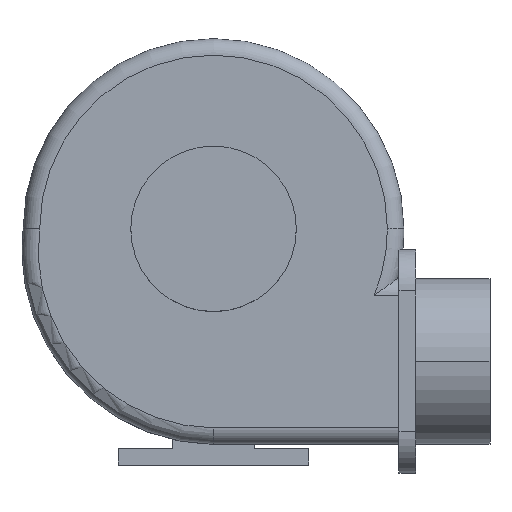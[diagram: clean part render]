
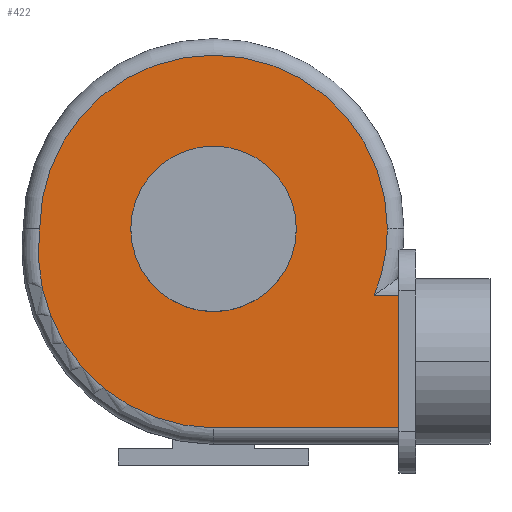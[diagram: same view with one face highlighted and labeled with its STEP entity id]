
A CAD part, top view. The second image highlights one B-rep face of the part: STEP entity #422.
In plain terms, the highlighted planar face has unit normal (0, 0, 1).
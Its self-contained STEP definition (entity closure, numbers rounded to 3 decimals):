
#38 = VERTEX_POINT ( 'NONE', #134 ) ;
#97 = DIRECTION ( 'NONE',  ( -1., 0., 0. ) ) ;
#109 = VERTEX_POINT ( 'NONE', #1774 ) ;
#120 = DIRECTION ( 'NONE',  ( -1., 0., 0. ) ) ;
#134 = CARTESIAN_POINT ( 'NONE',  ( 97.082, -40., 50. ) ) ;
#146 = CARTESIAN_POINT ( 'NONE',  ( 0., -120.199, 50. ) ) ;
#169 = EDGE_CURVE ( 'NONE', #262, #109, #2004, .T. ) ;
#171 = CARTESIAN_POINT ( 'NONE',  ( 112., -40., 50. ) ) ;
#181 = DIRECTION ( 'NONE',  ( 1., 0., 0. ) ) ;
#192 = DIRECTION ( 'NONE',  ( 0., 0., 1. ) ) ;
#262 = VERTEX_POINT ( 'NONE', #171 ) ;
#283 = AXIS2_PLACEMENT_3D ( 'NONE', #1579, #192, #1796 ) ;
#376 = ORIENTED_EDGE ( 'NONE', *, *, #385, .T. ) ;
#385 = EDGE_CURVE ( 'NONE', #1235, #2337, #432, .T. ) ;
#422 = ADVANCED_FACE ( 'NONE', ( #2107, #2173 ), #598, .T. ) ;
#432 = LINE ( 'NONE', #2864, #1584 ) ;
#489 = CIRCLE ( 'NONE', #283, 50. ) ;
#521 = LINE ( 'NONE', #853, #1548 ) ;
#596 = LINE ( 'NONE', #2652, #1210 ) ;
#598 = PLANE ( 'NONE',  #2395 ) ;
#615 = ORIENTED_EDGE ( 'NONE', *, *, #2442, .T. ) ;
#623 = DIRECTION ( 'NONE',  ( -1., 0., 0. ) ) ;
#664 = AXIS2_PLACEMENT_3D ( 'NONE', #2567, #1200, #2794 ) ;
#753 = EDGE_LOOP ( 'NONE', ( #1654, #1484 ) ) ;
#756 = EDGE_LOOP ( 'NONE', ( #376, #2443, #615, #2926, #1129, #938, #2436, #2460 ) ) ;
#779 = VECTOR ( 'NONE', #2187, 1000. ) ;
#827 = CARTESIAN_POINT ( 'NONE',  ( 0., 0., 50. ) ) ;
#853 = CARTESIAN_POINT ( 'NONE',  ( 112., -120., 50. ) ) ;
#865 = EDGE_CURVE ( 'NONE', #1899, #1235, #2935, .T. ) ;
#886 = EDGE_CURVE ( 'NONE', #2625, #1901, #489, .T. ) ;
#899 = DIRECTION ( 'NONE',  ( 0., 0., 1. ) ) ;
#938 = ORIENTED_EDGE ( 'NONE', *, *, #2157, .T. ) ;
#987 = DIRECTION ( 'NONE',  ( 0., 0., 1. ) ) ;
#1129 = ORIENTED_EDGE ( 'NONE', *, *, #169, .F. ) ;
#1174 = CARTESIAN_POINT ( 'NONE',  ( -50., 0., 50. ) ) ;
#1200 = DIRECTION ( 'NONE',  ( 0., 0., 1. ) ) ;
#1210 = VECTOR ( 'NONE', #1276, 1000. ) ;
#1235 = VERTEX_POINT ( 'NONE', #2868 ) ;
#1262 = CARTESIAN_POINT ( 'NONE',  ( 105., 0., 50. ) ) ;
#1265 = VERTEX_POINT ( 'NONE', #146 ) ;
#1269 = AXIS2_PLACEMENT_3D ( 'NONE', #2266, #899, #2503 ) ;
#1276 = DIRECTION ( 'NONE',  ( 0., 1., 0. ) ) ;
#1314 = EDGE_CURVE ( 'NONE', #109, #2026, #521, .T. ) ;
#1484 = ORIENTED_EDGE ( 'NONE', *, *, #2014, .F. ) ;
#1497 = CARTESIAN_POINT ( 'NONE',  ( 50., 0., 50. ) ) ;
#1548 = VECTOR ( 'NONE', #623, 1000. ) ;
#1569 = DIRECTION ( 'NONE',  ( 0., 0., 1. ) ) ;
#1579 = CARTESIAN_POINT ( 'NONE',  ( 0., 0., 50. ) ) ;
#1584 = VECTOR ( 'NONE', #120, 1000. ) ;
#1654 = ORIENTED_EDGE ( 'NONE', *, *, #886, .F. ) ;
#1735 = DIRECTION ( 'NONE',  ( 0., 0., 1. ) ) ;
#1774 = CARTESIAN_POINT ( 'NONE',  ( 112., -120., 50. ) ) ;
#1796 = DIRECTION ( 'NONE',  ( 1., 0., 0. ) ) ;
#1852 = LINE ( 'NONE', #2840, #1915 ) ;
#1899 = VERTEX_POINT ( 'NONE', #1262 ) ;
#1901 = VERTEX_POINT ( 'NONE', #1497 ) ;
#1915 = VECTOR ( 'NONE', #97, 1000. ) ;
#1999 = CIRCLE ( 'NONE', #2194, 107.315 ) ;
#2004 = LINE ( 'NONE', #2882, #779 ) ;
#2014 = EDGE_CURVE ( 'NONE', #1901, #2625, #2819, .T. ) ;
#2026 = VERTEX_POINT ( 'NONE', #2109 ) ;
#2073 = EDGE_CURVE ( 'NONE', #2337, #1265, #1999, .T. ) ;
#2107 = FACE_OUTER_BOUND ( 'NONE', #756, .T. ) ;
#2109 = CARTESIAN_POINT ( 'NONE',  ( 0., -120., 50. ) ) ;
#2157 = EDGE_CURVE ( 'NONE', #262, #38, #1852, .T. ) ;
#2173 = FACE_BOUND ( 'NONE', #753, .T. ) ;
#2187 = DIRECTION ( 'NONE',  ( 0., -1., 0. ) ) ;
#2194 = AXIS2_PLACEMENT_3D ( 'NONE', #2363, #987, #2598 ) ;
#2266 = CARTESIAN_POINT ( 'NONE',  ( 0., 0., 50. ) ) ;
#2337 = VERTEX_POINT ( 'NONE', #2370 ) ;
#2363 = CARTESIAN_POINT ( 'NONE',  ( 1.404, -12.893, 50. ) ) ;
#2370 = CARTESIAN_POINT ( 'NONE',  ( -105.135, 0., 50. ) ) ;
#2395 = AXIS2_PLACEMENT_3D ( 'NONE', #827, #1735, #2435 ) ;
#2435 = DIRECTION ( 'NONE',  ( 1., 0., 0. ) ) ;
#2436 = ORIENTED_EDGE ( 'NONE', *, *, #2900, .T. ) ;
#2442 = EDGE_CURVE ( 'NONE', #1265, #2026, #596, .T. ) ;
#2443 = ORIENTED_EDGE ( 'NONE', *, *, #2073, .T. ) ;
#2460 = ORIENTED_EDGE ( 'NONE', *, *, #865, .T. ) ;
#2503 = DIRECTION ( 'NONE',  ( 1., 0., 0. ) ) ;
#2566 = CIRCLE ( 'NONE', #1269, 105. ) ;
#2567 = CARTESIAN_POINT ( 'NONE',  ( 0., 0., 50. ) ) ;
#2598 = DIRECTION ( 'NONE',  ( 1., 0., 0. ) ) ;
#2625 = VERTEX_POINT ( 'NONE', #1174 ) ;
#2652 = CARTESIAN_POINT ( 'NONE',  ( 0., 0., 50. ) ) ;
#2794 = DIRECTION ( 'NONE',  ( 1., 0., 0. ) ) ;
#2819 = CIRCLE ( 'NONE', #664, 50. ) ;
#2840 = CARTESIAN_POINT ( 'NONE',  ( 112., -40., 50. ) ) ;
#2864 = CARTESIAN_POINT ( 'NONE',  ( -115., 0., 50. ) ) ;
#2868 = CARTESIAN_POINT ( 'NONE',  ( -105., 0., 50. ) ) ;
#2882 = CARTESIAN_POINT ( 'NONE',  ( 112., -120., 50. ) ) ;
#2900 = EDGE_CURVE ( 'NONE', #38, #1899, #2566, .T. ) ;
#2926 = ORIENTED_EDGE ( 'NONE', *, *, #1314, .F. ) ;
#2929 = CARTESIAN_POINT ( 'NONE',  ( 0., 0., 50. ) ) ;
#2935 = CIRCLE ( 'NONE', #2954, 105. ) ;
#2954 = AXIS2_PLACEMENT_3D ( 'NONE', #2929, #1569, #181 ) ;
